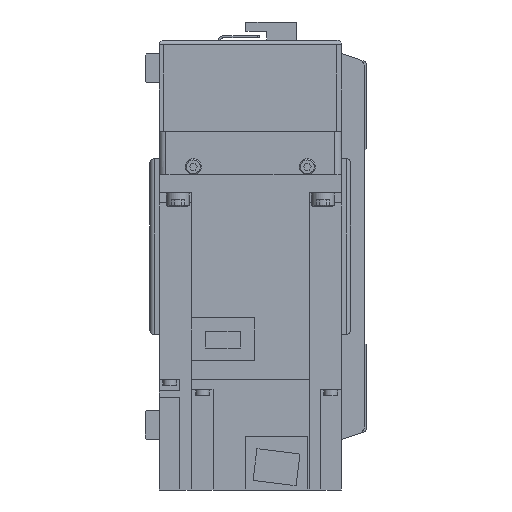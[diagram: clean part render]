
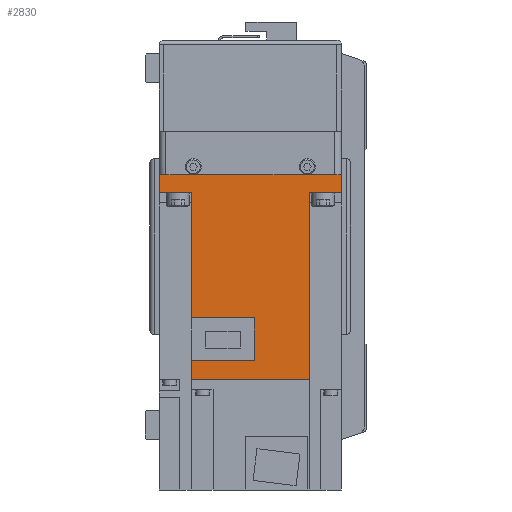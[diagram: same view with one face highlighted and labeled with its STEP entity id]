
A CAD part, left-side view. The second image highlights one B-rep face of the part: STEP entity #2830.
In plain terms, the highlighted planar face has unit normal (-1, 0, 0) as drawn and (1, 0, 0) by its records, which use the part's own axes.
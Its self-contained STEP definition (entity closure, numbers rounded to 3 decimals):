
#2830 = ADVANCED_FACE( '', ( #5908 ), #5909, .F. );
#5908 = FACE_OUTER_BOUND( '', #9092, .T. );
#5909 = PLANE( '', #9093 );
#9092 = EDGE_LOOP( '', ( #17179, #17180, #17181, #17182, #17183, #17184, #17185, #17186, #17187, #17188, #17189, #17190 ) );
#9093 = AXIS2_PLACEMENT_3D( '', #17191, #17192, #17193 );
#17179 = ORIENTED_EDGE( '', *, *, #19647, .F. );
#17180 = ORIENTED_EDGE( '', *, *, #18441, .F. );
#17181 = ORIENTED_EDGE( '', *, *, #19858, .F. );
#17182 = ORIENTED_EDGE( '', *, *, #20920, .T. );
#17183 = ORIENTED_EDGE( '', *, *, #21270, .F. );
#17184 = ORIENTED_EDGE( '', *, *, #19118, .T. );
#17185 = ORIENTED_EDGE( '', *, *, #20437, .T. );
#17186 = ORIENTED_EDGE( '', *, *, #20563, .F. );
#17187 = ORIENTED_EDGE( '', *, *, #20989, .F. );
#17188 = ORIENTED_EDGE( '', *, *, #18443, .F. );
#17189 = ORIENTED_EDGE( '', *, *, #18569, .F. );
#17190 = ORIENTED_EDGE( '', *, *, #20594, .F. );
#17191 = CARTESIAN_POINT( '', ( 40., 89.8, 40. ) );
#17192 = DIRECTION( '', ( -1., 0., 0. ) );
#17193 = DIRECTION( '', ( 0., 0., 1. ) );
#18441 = EDGE_CURVE( '', #22013, #22015, #22016, .T. );
#18443 = EDGE_CURVE( '', #22017, #22019, #22020, .T. );
#18569 = EDGE_CURVE( '', #22239, #22017, #22240, .T. );
#19118 = EDGE_CURVE( '', #23195, #23193, #23196, .T. );
#19647 = EDGE_CURVE( '', #22015, #24068, #24069, .T. );
#19858 = EDGE_CURVE( '', #24389, #22013, #24391, .T. );
#20437 = EDGE_CURVE( '', #23193, #25234, #25236, .T. );
#20563 = EDGE_CURVE( '', #25408, #25234, #25410, .T. );
#20594 = EDGE_CURVE( '', #24068, #22239, #25452, .T. );
#20920 = EDGE_CURVE( '', #24389, #25881, #25883, .T. );
#20989 = EDGE_CURVE( '', #22019, #25408, #25972, .T. );
#21270 = EDGE_CURVE( '', #23195, #25881, #26302, .T. );
#22013 = VERTEX_POINT( '', #27208 );
#22015 = VERTEX_POINT( '', #27211 );
#22016 = LINE( '', #27212, #27213 );
#22017 = VERTEX_POINT( '', #27214 );
#22019 = VERTEX_POINT( '', #27217 );
#22020 = LINE( '', #27218, #27219 );
#22239 = VERTEX_POINT( '', #27578 );
#22240 = LINE( '', #27579, #27580 );
#23193 = VERTEX_POINT( '', #28934 );
#23195 = VERTEX_POINT( '', #28937 );
#23196 = LINE( '', #28938, #28939 );
#24068 = VERTEX_POINT( '', #30209 );
#24069 = LINE( '', #30210, #30211 );
#24389 = VERTEX_POINT( '', #30719 );
#24391 = LINE( '', #30722, #30723 );
#25234 = VERTEX_POINT( '', #31910 );
#25236 = LINE( '', #31913, #31914 );
#25408 = VERTEX_POINT( '', #32151 );
#25410 = LINE( '', #32154, #32155 );
#25452 = LINE( '', #32210, #32211 );
#25881 = VERTEX_POINT( '', #32885 );
#25883 = LINE( '', #32888, #32889 );
#25972 = LINE( '', #33012, #33013 );
#26302 = LINE( '', #33508, #33509 );
#27208 = CARTESIAN_POINT( '', ( 40., 89.8, -25.95 ) );
#27211 = CARTESIAN_POINT( '', ( 40., 81.4, -25.95 ) );
#27212 = CARTESIAN_POINT( '', ( 40., 158., -25.95 ) );
#27213 = VECTOR( '', #34309, 1000. );
#27214 = CARTESIAN_POINT( '', ( 40., 62.8, -25.95 ) );
#27217 = CARTESIAN_POINT( '', ( 40., 8., -25.95 ) );
#27218 = CARTESIAN_POINT( '', ( 40., 158., -25.95 ) );
#27219 = VECTOR( '', #34311, 1000. );
#27578 = CARTESIAN_POINT( '', ( 40., 62.8, 1.8 ) );
#27579 = CARTESIAN_POINT( '', ( 40., 62.8, 1.8 ) );
#27580 = VECTOR( '', #34467, 1000. );
#28934 = CARTESIAN_POINT( '', ( 40., 0., 40. ) );
#28937 = CARTESIAN_POINT( '', ( 40., 8., 40. ) );
#28938 = CARTESIAN_POINT( '', ( 40., 89.8, 40. ) );
#28939 = VECTOR( '', #35141, 1000. );
#30209 = CARTESIAN_POINT( '', ( 40., 81.4, 1.8 ) );
#30210 = CARTESIAN_POINT( '', ( 40., 81.4, -26. ) );
#30211 = VECTOR( '', #35861, 1000. );
#30719 = CARTESIAN_POINT( '', ( 40., 89.8, 25.95 ) );
#30722 = CARTESIAN_POINT( '', ( 40., 89.8, 40. ) );
#30723 = VECTOR( '', #36144, 1000. );
#31910 = CARTESIAN_POINT( '', ( 40., 0., -40. ) );
#31913 = CARTESIAN_POINT( '', ( 40., 0., 40. ) );
#31914 = VECTOR( '', #36835, 1000. );
#32151 = CARTESIAN_POINT( '', ( 40., 8., -40. ) );
#32154 = CARTESIAN_POINT( '', ( 40., 89.8, -40. ) );
#32155 = VECTOR( '', #36991, 1000. );
#32210 = CARTESIAN_POINT( '', ( 40., 81.4, 1.8 ) );
#32211 = VECTOR( '', #37038, 1000. );
#32885 = CARTESIAN_POINT( '', ( 40., 8., 25.95 ) );
#32888 = CARTESIAN_POINT( '', ( 40., 158., 25.95 ) );
#32889 = VECTOR( '', #37363, 1000. );
#33012 = CARTESIAN_POINT( '', ( 40., 8., 40. ) );
#33013 = VECTOR( '', #37436, 1000. );
#33508 = CARTESIAN_POINT( '', ( 40., 8., 40. ) );
#33509 = VECTOR( '', #37684, 1000. );
#34309 = DIRECTION( '', ( 0., -1., 0. ) );
#34311 = DIRECTION( '', ( 0., -1., 0. ) );
#34467 = DIRECTION( '', ( 0., 0., -1. ) );
#35141 = DIRECTION( '', ( 0., -1., 0. ) );
#35861 = DIRECTION( '', ( 0., 0., 1. ) );
#36144 = DIRECTION( '', ( 0., 0., -1. ) );
#36835 = DIRECTION( '', ( 0., 0., -1. ) );
#36991 = DIRECTION( '', ( 0., -1., 0. ) );
#37038 = DIRECTION( '', ( 0., -1., 0. ) );
#37363 = DIRECTION( '', ( 0., -1., 0. ) );
#37436 = DIRECTION( '', ( 0., 0., -1. ) );
#37684 = DIRECTION( '', ( 0., 0., -1. ) );
